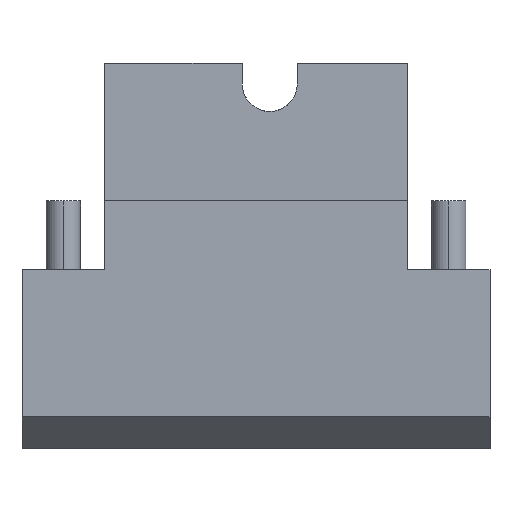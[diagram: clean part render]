
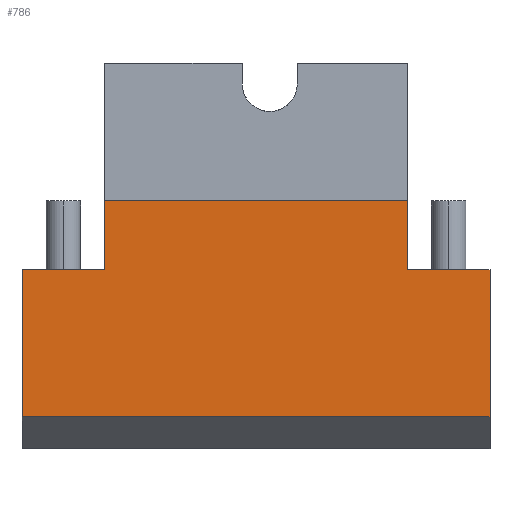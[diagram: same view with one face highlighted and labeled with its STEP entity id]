
A CAD part, left-side view. The second image highlights one B-rep face of the part: STEP entity #786.
In plain terms, the highlighted planar face has unit normal (-1, 0, 0).
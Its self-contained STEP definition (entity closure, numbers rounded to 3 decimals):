
#3 = VECTOR ( 'NONE', #714, 1000. ) ;
#7 = EDGE_CURVE ( 'NONE', #141, #866, #377, .T. ) ;
#16 = LINE ( 'NONE', #607, #3 ) ;
#24 = EDGE_CURVE ( 'NONE', #873, #88, #306, .T. ) ;
#26 = VECTOR ( 'NONE', #688, 1000. ) ;
#30 = LINE ( 'NONE', #882, #76 ) ;
#45 = DIRECTION ( 'NONE',  ( 0., -1., 0. ) ) ;
#56 = EDGE_LOOP ( 'NONE', ( #853, #472, #291, #188, #347, #336, #808, #452 ) ) ;
#76 = VECTOR ( 'NONE', #45, 1000. ) ;
#79 = DIRECTION ( 'NONE',  ( 0., 0., -1. ) ) ;
#88 = VERTEX_POINT ( 'NONE', #410 ) ;
#122 = VERTEX_POINT ( 'NONE', #827 ) ;
#141 = VERTEX_POINT ( 'NONE', #834 ) ;
#188 = ORIENTED_EDGE ( 'NONE', *, *, #24, .T. ) ;
#197 = VECTOR ( 'NONE', #802, 1000. ) ;
#199 = LINE ( 'NONE', #558, #367 ) ;
#216 = CARTESIAN_POINT ( 'NONE',  ( 0., 17., 13. ) ) ;
#261 = EDGE_CURVE ( 'NONE', #710, #734, #707, .T. ) ;
#267 = CARTESIAN_POINT ( 'NONE',  ( 0., -11., 13. ) ) ;
#273 = VERTEX_POINT ( 'NONE', #267 ) ;
#291 = ORIENTED_EDGE ( 'NONE', *, *, #399, .F. ) ;
#303 = CARTESIAN_POINT ( 'NONE',  ( 0., 17., 28. ) ) ;
#306 = LINE ( 'NONE', #303, #470 ) ;
#326 = CARTESIAN_POINT ( 'NONE',  ( 0., 11., 18. ) ) ;
#336 = ORIENTED_EDGE ( 'NONE', *, *, #261, .F. ) ;
#347 = ORIENTED_EDGE ( 'NONE', *, *, #776, .T. ) ;
#355 = VECTOR ( 'NONE', #432, 1000. ) ;
#367 = VECTOR ( 'NONE', #79, 1000. ) ;
#377 = LINE ( 'NONE', #715, #402 ) ;
#387 = DIRECTION ( 'NONE',  ( 0., 0., 1. ) ) ;
#399 = EDGE_CURVE ( 'NONE', #873, #141, #30, .T. ) ;
#401 = PLANE ( 'NONE',  #804 ) ;
#402 = VECTOR ( 'NONE', #387, 1000. ) ;
#410 = CARTESIAN_POINT ( 'NONE',  ( 0., 17., 2.309 ) ) ;
#423 = CARTESIAN_POINT ( 'NONE',  ( 0., -17., 28. ) ) ;
#428 = DIRECTION ( 'NONE',  ( 0., 0., 1. ) ) ;
#432 = DIRECTION ( 'NONE',  ( 0., 1., 0. ) ) ;
#435 = CARTESIAN_POINT ( 'NONE',  ( 0., -17., 18. ) ) ;
#447 = DIRECTION ( 'NONE',  ( -1., 0., 0. ) ) ;
#452 = ORIENTED_EDGE ( 'NONE', *, *, #505, .F. ) ;
#470 = VECTOR ( 'NONE', #662, 1000. ) ;
#472 = ORIENTED_EDGE ( 'NONE', *, *, #7, .F. ) ;
#505 = EDGE_CURVE ( 'NONE', #122, #273, #199, .T. ) ;
#515 = CARTESIAN_POINT ( 'NONE',  ( 0., -17., 2.309 ) ) ;
#558 = CARTESIAN_POINT ( 'NONE',  ( 0., -11., 28. ) ) ;
#607 = CARTESIAN_POINT ( 'NONE',  ( 0., 17., 2.309 ) ) ;
#616 = LINE ( 'NONE', #435, #355 ) ;
#633 = CARTESIAN_POINT ( 'NONE',  ( 0., -17., 13. ) ) ;
#662 = DIRECTION ( 'NONE',  ( 0., 0., -1. ) ) ;
#688 = DIRECTION ( 'NONE',  ( 0., 0., -1. ) ) ;
#707 = LINE ( 'NONE', #423, #26 ) ;
#710 = VERTEX_POINT ( 'NONE', #633 ) ;
#714 = DIRECTION ( 'NONE',  ( 0., -1., 0. ) ) ;
#715 = CARTESIAN_POINT ( 'NONE',  ( 0., 11., 13. ) ) ;
#734 = VERTEX_POINT ( 'NONE', #515 ) ;
#738 = EDGE_CURVE ( 'NONE', #122, #866, #616, .T. ) ;
#776 = EDGE_CURVE ( 'NONE', #88, #734, #16, .T. ) ;
#777 = CARTESIAN_POINT ( 'NONE',  ( 0., 17., 28. ) ) ;
#786 = ADVANCED_FACE ( 'NONE', ( #921 ), #401, .T. ) ;
#802 = DIRECTION ( 'NONE',  ( 0., -1., 0. ) ) ;
#804 = AXIS2_PLACEMENT_3D ( 'NONE', #777, #447, #428 ) ;
#808 = ORIENTED_EDGE ( 'NONE', *, *, #818, .F. ) ;
#818 = EDGE_CURVE ( 'NONE', #273, #710, #881, .T. ) ;
#827 = CARTESIAN_POINT ( 'NONE',  ( 0., -11., 18. ) ) ;
#834 = CARTESIAN_POINT ( 'NONE',  ( 0., 11., 13. ) ) ;
#853 = ORIENTED_EDGE ( 'NONE', *, *, #738, .T. ) ;
#854 = CARTESIAN_POINT ( 'NONE',  ( 0., -11., 13. ) ) ;
#866 = VERTEX_POINT ( 'NONE', #326 ) ;
#873 = VERTEX_POINT ( 'NONE', #216 ) ;
#881 = LINE ( 'NONE', #854, #197 ) ;
#882 = CARTESIAN_POINT ( 'NONE',  ( 0., 17., 13. ) ) ;
#921 = FACE_OUTER_BOUND ( 'NONE', #56, .T. ) ;
